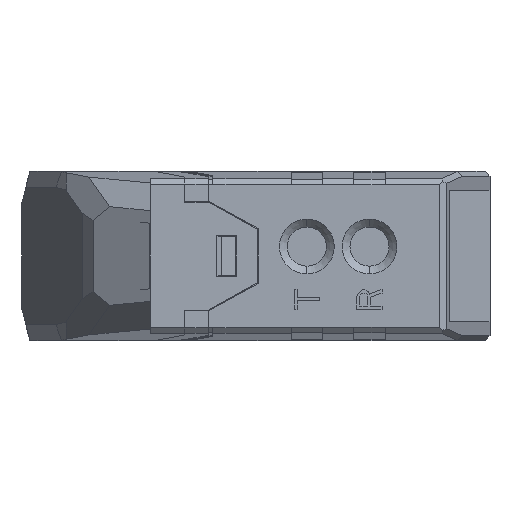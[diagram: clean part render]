
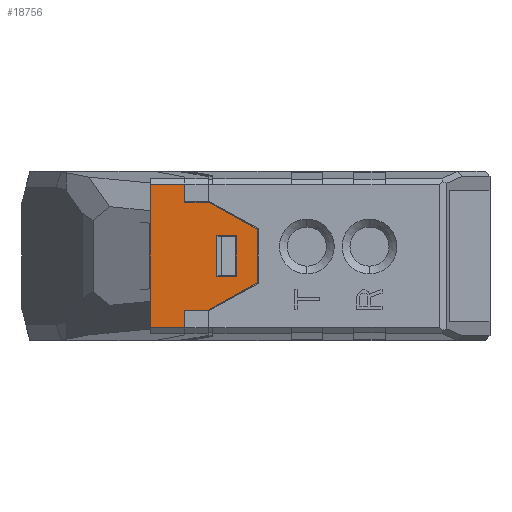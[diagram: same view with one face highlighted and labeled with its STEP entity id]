
A CAD part, left-side view. The second image highlights one B-rep face of the part: STEP entity #18756.
In plain terms, the highlighted planar face has unit normal (-1, 0, 0).
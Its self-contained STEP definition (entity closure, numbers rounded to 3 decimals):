
#16695=DIRECTION('',(0.,0.,-1.));
#16696=VECTOR('',#16695,0.6);
#16697=CARTESIAN_POINT('',(-10.5,-2.7,-4.));
#16698=LINE('',#16697,#16696);
#16737=DIRECTION('',(0.,0.,-1.));
#16738=VECTOR('',#16737,0.6);
#16739=CARTESIAN_POINT('',(-10.5,-2.7,4.6));
#16740=LINE('',#16739,#16738);
#16779=DIRECTION('',(0.,-1.,0.));
#16780=VECTOR('',#16779,2.2);
#16781=CARTESIAN_POINT('',(-10.5,-2.7,4.6));
#16782=LINE('',#16781,#16780);
#16786=DIRECTION('',(0.,0.,-1.));
#16787=VECTOR('',#16786,1.15);
#16788=CARTESIAN_POINT('',(-10.5,-4.9,4.6));
#16789=LINE('',#16788,#16787);
#16793=DIRECTION('',(0.,-1.,0.));
#16794=VECTOR('',#16793,1.5);
#16795=CARTESIAN_POINT('',(-10.5,-4.9,3.45));
#16796=LINE('',#16795,#16794);
#16800=DIRECTION('',(0.,-0.874,-0.486));
#16801=VECTOR('',#16800,3.603);
#16802=CARTESIAN_POINT('',(-10.5,-6.4,3.45));
#16803=LINE('',#16802,#16801);
#16807=DIRECTION('',(0.,0.,-1.));
#16808=VECTOR('',#16807,3.4);
#16809=CARTESIAN_POINT('',(-10.5,-9.55,1.7));
#16810=LINE('',#16809,#16808);
#16814=DIRECTION('',(0.,0.874,-0.486));
#16815=VECTOR('',#16814,3.603);
#16816=CARTESIAN_POINT('',(-10.5,-9.55,-1.7));
#16817=LINE('',#16816,#16815);
#16821=DIRECTION('',(0.,1.,0.));
#16822=VECTOR('',#16821,1.5);
#16823=CARTESIAN_POINT('',(-10.5,-6.4,-3.45));
#16824=LINE('',#16823,#16822);
#16828=DIRECTION('',(0.,0.,-1.));
#16829=VECTOR('',#16828,1.15);
#16830=CARTESIAN_POINT('',(-10.5,-4.9,-3.45));
#16831=LINE('',#16830,#16829);
#16835=DIRECTION('',(0.,1.,0.));
#16836=VECTOR('',#16835,2.2);
#16837=CARTESIAN_POINT('',(-10.5,-4.9,-4.6));
#16838=LINE('',#16837,#16836);
#16842=DIRECTION('',(0.,0.839,0.545));
#16843=VECTOR('',#16842,2.679);
#16844=CARTESIAN_POINT('',(-10.5,-1.649,-4.));
#16845=LINE('',#16844,#16843);
#16849=DIRECTION('',(0.,0.,1.));
#16850=VECTOR('',#16849,5.082);
#16851=CARTESIAN_POINT('',(-10.5,0.599,-2.541));
#16852=LINE('',#16851,#16850);
#16856=DIRECTION('',(0.,-0.839,0.545));
#16857=VECTOR('',#16856,2.679);
#16858=CARTESIAN_POINT('',(-10.5,0.599,2.541));
#16859=LINE('',#16858,#16857);
#17858=DIRECTION('',(0.,1.,0.));
#17859=VECTOR('',#17858,1.3);
#17860=CARTESIAN_POINT('',(-10.5,-8.2,-1.3));
#17861=LINE('',#17860,#17859);
#17872=DIRECTION('',(0.,0.,1.));
#17873=VECTOR('',#17872,2.6);
#17874=CARTESIAN_POINT('',(-10.5,-6.9,-1.3));
#17875=LINE('',#17874,#17873);
#17886=DIRECTION('',(0.,-1.,0.));
#17887=VECTOR('',#17886,1.3);
#17888=CARTESIAN_POINT('',(-10.5,-6.9,1.3));
#17889=LINE('',#17888,#17887);
#17900=DIRECTION('',(0.,0.,-1.));
#17901=VECTOR('',#17900,2.6);
#17902=CARTESIAN_POINT('',(-10.5,-8.2,1.3));
#17903=LINE('',#17902,#17901);
#17935=DIRECTION('',(0.,-1.,0.));
#17936=VECTOR('',#17935,1.051);
#17937=CARTESIAN_POINT('',(-10.5,-1.649,-4.));
#17938=LINE('',#17937,#17936);
#18005=DIRECTION('',(0.,1.,0.));
#18006=VECTOR('',#18005,1.051);
#18007=CARTESIAN_POINT('',(-10.5,-2.7,4.));
#18008=LINE('',#18007,#18006);
#18158=CARTESIAN_POINT('',(-10.5,-4.9,-4.6));
#18159=VERTEX_POINT('',#18158);
#18160=CARTESIAN_POINT('',(-10.5,-4.9,-3.45));
#18161=VERTEX_POINT('',#18160);
#18170=CARTESIAN_POINT('',(-10.5,-2.7,-4.6));
#18171=VERTEX_POINT('',#18170);
#18172=CARTESIAN_POINT('',(-10.5,-2.7,-4.));
#18173=VERTEX_POINT('',#18172);
#18182=CARTESIAN_POINT('',(-10.5,-2.7,4.6));
#18183=VERTEX_POINT('',#18182);
#18184=CARTESIAN_POINT('',(-10.5,-2.7,4.));
#18185=VERTEX_POINT('',#18184);
#18194=CARTESIAN_POINT('',(-10.5,-4.9,4.6));
#18195=VERTEX_POINT('',#18194);
#18196=CARTESIAN_POINT('',(-10.5,-4.9,3.45));
#18197=VERTEX_POINT('',#18196);
#18198=CARTESIAN_POINT('',(-10.5,-6.4,3.45));
#18199=VERTEX_POINT('',#18198);
#18200=CARTESIAN_POINT('',(-10.5,-9.55,1.7));
#18201=VERTEX_POINT('',#18200);
#18202=CARTESIAN_POINT('',(-10.5,-9.55,-1.7));
#18203=VERTEX_POINT('',#18202);
#18204=CARTESIAN_POINT('',(-10.5,-6.4,-3.45));
#18205=VERTEX_POINT('',#18204);
#18206=CARTESIAN_POINT('',(-10.5,-1.649,-4.));
#18207=VERTEX_POINT('',#18206);
#18208=CARTESIAN_POINT('',(-10.5,0.599,-2.541));
#18209=VERTEX_POINT('',#18208);
#18210=CARTESIAN_POINT('',(-10.5,0.599,2.541));
#18211=VERTEX_POINT('',#18210);
#18212=CARTESIAN_POINT('',(-10.5,-1.649,4.));
#18213=VERTEX_POINT('',#18212);
#18214=CARTESIAN_POINT('',(-10.5,-8.2,-1.3));
#18215=CARTESIAN_POINT('',(-10.5,-6.9,-1.3));
#18216=VERTEX_POINT('',#18214);
#18217=VERTEX_POINT('',#18215);
#18218=CARTESIAN_POINT('',(-10.5,-8.2,1.3));
#18219=VERTEX_POINT('',#18218);
#18220=CARTESIAN_POINT('',(-10.5,-6.9,1.3));
#18221=VERTEX_POINT('',#18220);
#18711=CARTESIAN_POINT('',(-10.5,1.6,-5.4));
#18712=DIRECTION('',(-1.,0.,0.));
#18713=DIRECTION('',(0.,-1.,0.));
#18714=AXIS2_PLACEMENT_3D('',#18711,#18712,#18713);
#18715=PLANE('',#18714);
#18717=ORIENTED_EDGE('',*,*,#18716,.T.);
#18719=ORIENTED_EDGE('',*,*,#18718,.T.);
#18721=ORIENTED_EDGE('',*,*,#18720,.T.);
#18723=ORIENTED_EDGE('',*,*,#18722,.T.);
#18725=ORIENTED_EDGE('',*,*,#18724,.T.);
#18727=ORIENTED_EDGE('',*,*,#18726,.T.);
#18729=ORIENTED_EDGE('',*,*,#18728,.T.);
#18730=ORIENTED_EDGE('',*,*,#18633,.T.);
#18731=ORIENTED_EDGE('',*,*,#18672,.T.);
#18732=ORIENTED_EDGE('',*,*,#18682,.F.);
#18734=ORIENTED_EDGE('',*,*,#18733,.F.);
#18736=ORIENTED_EDGE('',*,*,#18735,.T.);
#18738=ORIENTED_EDGE('',*,*,#18737,.T.);
#18740=ORIENTED_EDGE('',*,*,#18739,.T.);
#18742=ORIENTED_EDGE('',*,*,#18741,.F.);
#18743=ORIENTED_EDGE('',*,*,#18696,.F.);
#18744=EDGE_LOOP('',(#18717,#18719,#18721,#18723,#18725,#18727,#18729,#18730,
#18731,#18732,#18734,#18736,#18738,#18740,#18742,#18743));
#18745=FACE_OUTER_BOUND('',#18744,.F.);
#18747=ORIENTED_EDGE('',*,*,#18746,.F.);
#18749=ORIENTED_EDGE('',*,*,#18748,.F.);
#18751=ORIENTED_EDGE('',*,*,#18750,.F.);
#18753=ORIENTED_EDGE('',*,*,#18752,.F.);
#18754=EDGE_LOOP('',(#18747,#18749,#18751,#18753));
#18755=FACE_BOUND('',#18754,.F.);
#18633=EDGE_CURVE('',#18161,#18159,#16831,.T.);
#18672=EDGE_CURVE('',#18159,#18171,#16838,.T.);
#18682=EDGE_CURVE('',#18173,#18171,#16698,.T.);
#18696=EDGE_CURVE('',#18183,#18185,#16740,.T.);
#18716=EDGE_CURVE('',#18183,#18195,#16782,.T.);
#18718=EDGE_CURVE('',#18195,#18197,#16789,.T.);
#18720=EDGE_CURVE('',#18197,#18199,#16796,.T.);
#18722=EDGE_CURVE('',#18199,#18201,#16803,.T.);
#18724=EDGE_CURVE('',#18201,#18203,#16810,.T.);
#18726=EDGE_CURVE('',#18203,#18205,#16817,.T.);
#18728=EDGE_CURVE('',#18205,#18161,#16824,.T.);
#18733=EDGE_CURVE('',#18207,#18173,#17938,.T.);
#18735=EDGE_CURVE('',#18207,#18209,#16845,.T.);
#18737=EDGE_CURVE('',#18209,#18211,#16852,.T.);
#18739=EDGE_CURVE('',#18211,#18213,#16859,.T.);
#18741=EDGE_CURVE('',#18185,#18213,#18008,.T.);
#18746=EDGE_CURVE('',#18216,#18217,#17861,.T.);
#18748=EDGE_CURVE('',#18219,#18216,#17903,.T.);
#18750=EDGE_CURVE('',#18221,#18219,#17889,.T.);
#18752=EDGE_CURVE('',#18217,#18221,#17875,.T.);
#18756=ADVANCED_FACE('',(#18745,#18755),#18715,.T.);
